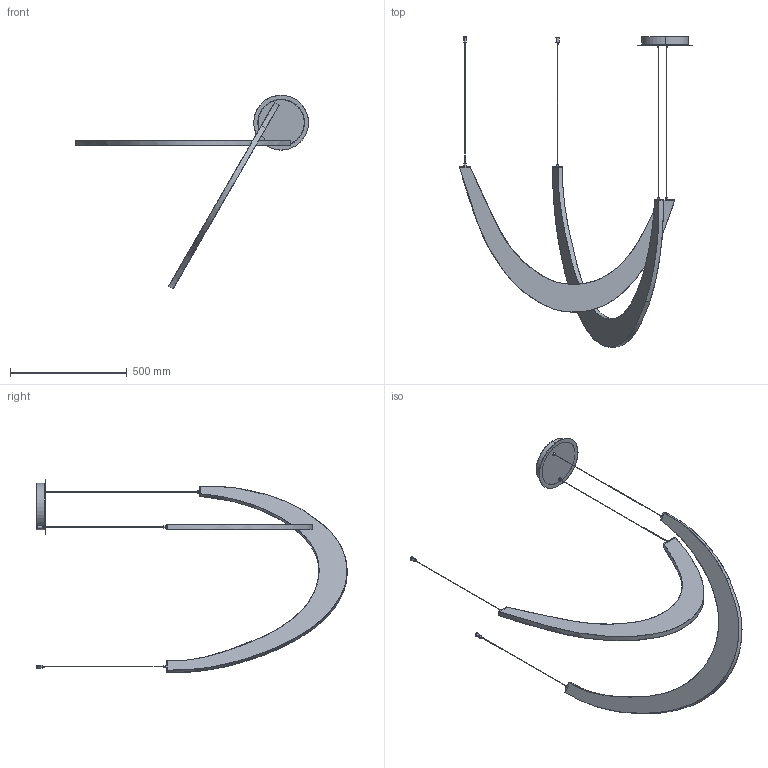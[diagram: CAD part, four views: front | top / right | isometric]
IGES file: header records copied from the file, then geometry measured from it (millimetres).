
Start section: SolidWorks IGES file using analytic representation for surfaces
Global section: file name: F:\燠隴矨\3D\2026-3\U Wooden Pendant Lamp.IGS,15; native system: HSolidWorks 2022; preprocessor: SolidWorks 2022; author: MyPC; date: 260315.163202; units: millimetre
Bounding box: 999.96 x 1331.29 x 829.89 mm (x, y, z)
Surface area: 873876.5 mm2 (no closed solid volume)
Topology: 0 solids, 0 shells, 124 faces, 2128 edges, 2128 vertices
Faces by surface type: bspline 70, revolution 54
